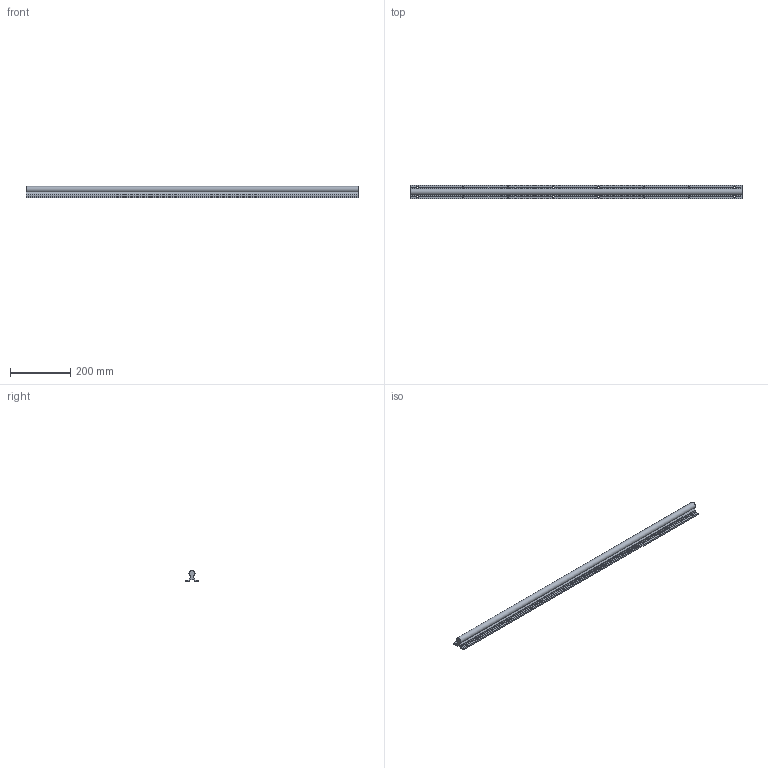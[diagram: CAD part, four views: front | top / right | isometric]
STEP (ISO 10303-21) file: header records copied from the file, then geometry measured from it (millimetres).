
FILE_DESCRIPTION(/* description */ (''),/* implementation_level */ '2;1');
FILE_NAME(/* name */ 'C:\Users\David\Desktop\stepFiles\Profilfuehrung\LFS20x1100.stp',/* time_stamp */ '2018-06-24T15:21:58+02:00',/* author */ ('Buskamp'),/* organization */ (''),/* preprocessor_version */ 'ST-DEVELOPER v17',/* originating_system */ 'Autodesk Inventor 2019',/* authorisation */ '');
FILE_SCHEMA (('AUTOMOTIVE_DESIGN { 1 0 10303 214 3 1 1 }'));
Length unit declared in the file: millimetre
Products named in the file (1): Linearführung D20xvariabel
Bounding box: 1100 x 45 x 37 mm (x, y, z)
Volume: 710563 mm3; surface area: 195551.5 mm2
Topology: 1 solids, 1 shells, 106 faces, 344 edges, 224 vertices
Faces by surface type: plane 73, cylinder 17, cone 16
Full cylindrical faces by diameter (mm): 5.5 x16
Entity records: 3881 total; most frequent: CARTESIAN_POINT 739, ORIENTED_EDGE 688, DIRECTION 656, EDGE_CURVE 344, AXIS2_PLACEMENT_3D 237, VERTEX_POINT 224, LINE 182, VECTOR 182
